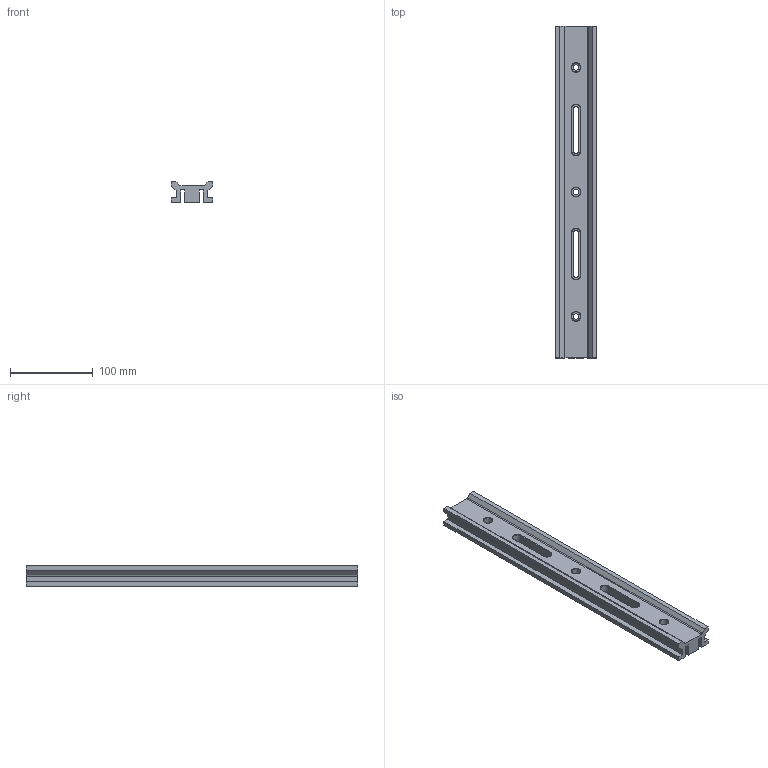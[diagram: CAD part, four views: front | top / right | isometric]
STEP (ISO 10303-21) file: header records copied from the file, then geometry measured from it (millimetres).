
FILE_DESCRIPTION((''),'2;1');
FILE_NAME('OOM-G400','2020-11-03T',('Administrator'),(''),'CREO PARAMETRIC BY PTC INC, 2015290','CREO PARAMETRIC BY PTC INC, 2015290','');
FILE_SCHEMA(('CONFIG_CONTROL_DESIGN'));
Length unit declared in the file: millimetre
Products named in the file (1): OOM-G400
Bounding box: 50 x 400 x 25 mm (x, y, z)
Volume: 288777 mm3; surface area: 99441.7 mm2
Topology: 1 solids, 1 shells, 77 faces, 196 edges, 126 vertices
Faces by surface type: plane 39, cylinder 28, torus 6, cone 4
Entity records: 2384 total; most frequent: DIRECTION 418, CARTESIAN_POINT 399, ORIENTED_EDGE 392, EDGE_CURVE 196, AXIS2_PLACEMENT_3D 145, VECTOR 128, LINE 128, VERTEX_POINT 126
